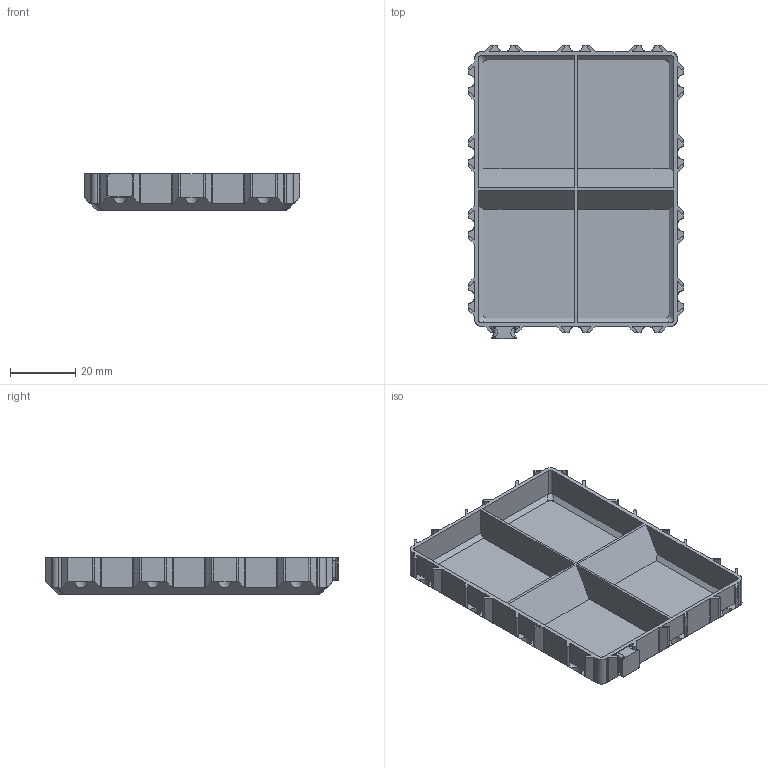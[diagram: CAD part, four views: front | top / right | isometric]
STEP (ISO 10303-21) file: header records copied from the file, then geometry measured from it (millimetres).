
FILE_DESCRIPTION(/* description */ (''),/* implementation_level */ '2;1');
FILE_NAME(/* name */ 'BOX_x03_y04_z010_tx1_ty1_v1.stp',/* time_stamp */ '2024-02-16T08:45:06+01:00',/* author */ ('ott'),/* organization */ (''),/* preprocessor_version */ 'ST-DEVELOPER v19.2',/* originating_system */ 'Autodesk Inventor 2023',/* authorisation */ '');
FILE_SCHEMA (('AUTOMOTIVE_DESIGN { 1 0 10303 214 3 1 1 }'));
Length unit declared in the file: millimetre
Products named in the file (1): BOX_x03_y04_z010_tx1_ty1_v1
Bounding box: 66 x 89.8 x 11.2 mm (x, y, z)
Volume: 14645.2 mm3; surface area: 19296.5 mm2
Topology: 2 solids, 2 shells, 282 faces, 794 edges, 520 vertices
Faces by surface type: plane 162, cylinder 116, torus 4
Entity records: 9553 total; most frequent: CARTESIAN_POINT 1685, DIRECTION 1626, ORIENTED_EDGE 1588, EDGE_CURVE 794, AXIS2_PLACEMENT_3D 557, VERTEX_POINT 520, LINE 512, VECTOR 512
